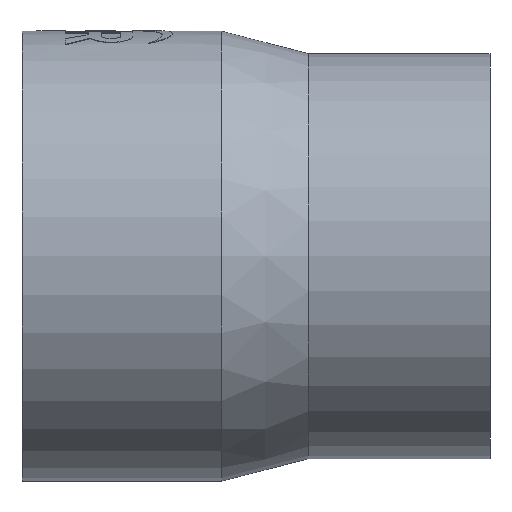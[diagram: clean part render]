
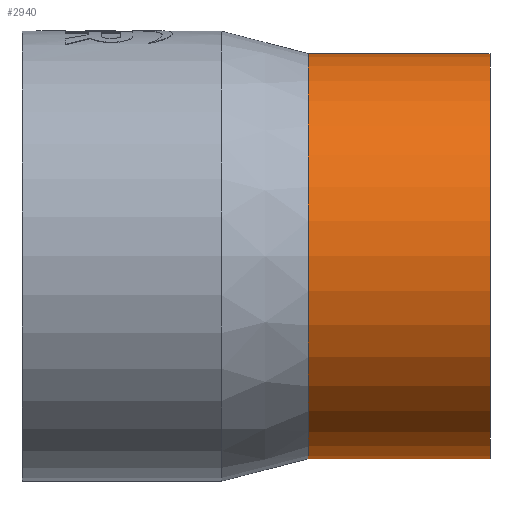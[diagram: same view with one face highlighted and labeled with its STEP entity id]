
A CAD part, front view. The second image highlights one B-rep face of the part: STEP entity #2940.
In plain terms, the highlighted cylindrical face has radius 225 mm (diameter 450 mm), a partial arc.
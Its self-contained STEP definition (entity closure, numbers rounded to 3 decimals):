
#53 = DIRECTION ( 'NONE',  ( -1., 0., 0. ) ) ;
#275 = ORIENTED_EDGE ( 'NONE', *, *, #3305, .F. ) ;
#353 = CARTESIAN_POINT ( 'NONE',  ( 520., 0., 225. ) ) ;
#459 = CARTESIAN_POINT ( 'NONE',  ( 318., 0., -225. ) ) ;
#479 = CARTESIAN_POINT ( 'NONE',  ( 318., 0., 225. ) ) ;
#883 = VERTEX_POINT ( 'NONE', #353 ) ;
#918 = CIRCLE ( 'NONE', #2718, 225. ) ;
#923 = CIRCLE ( 'NONE', #2646, 225. ) ;
#1013 = VERTEX_POINT ( 'NONE', #459 ) ;
#1015 = LINE ( 'NONE', #2954, #3371 ) ;
#1344 = DIRECTION ( 'NONE',  ( 0., 0., 1. ) ) ;
#1353 = CARTESIAN_POINT ( 'NONE',  ( -0.3, 0., 0. ) ) ;
#1473 = DIRECTION ( 'NONE',  ( -1., 0., 0. ) ) ;
#1520 = DIRECTION ( 'NONE',  ( -1., 0., 0. ) ) ;
#1647 = CARTESIAN_POINT ( 'NONE',  ( 520., 0., 0. ) ) ;
#1746 = ORIENTED_EDGE ( 'NONE', *, *, #2326, .T. ) ;
#2071 = DIRECTION ( 'NONE',  ( 0., 0., 1. ) ) ;
#2087 = CARTESIAN_POINT ( 'NONE',  ( 318., 0., 0. ) ) ;
#2122 = VERTEX_POINT ( 'NONE', #479 ) ;
#2280 = EDGE_CURVE ( 'NONE', #2728, #1013, #3374, .T. ) ;
#2326 = EDGE_CURVE ( 'NONE', #883, #2122, #1015, .T. ) ;
#2574 = FACE_OUTER_BOUND ( 'NONE', #3607, .T. ) ;
#2593 = AXIS2_PLACEMENT_3D ( 'NONE', #1353, #1473, #1344 ) ;
#2646 = AXIS2_PLACEMENT_3D ( 'NONE', #2087, #3739, #2071 ) ;
#2718 = AXIS2_PLACEMENT_3D ( 'NONE', #1647, #1520, #3000 ) ;
#2728 = VERTEX_POINT ( 'NONE', #3648 ) ;
#2876 = DIRECTION ( 'NONE',  ( -1., 0., 0. ) ) ;
#2940 = ADVANCED_FACE ( 'NONE', ( #2574 ), #3169, .T. ) ;
#2954 = CARTESIAN_POINT ( 'NONE',  ( -0.3, 0., 225. ) ) ;
#3000 = DIRECTION ( 'NONE',  ( 0., 0., 1. ) ) ;
#3018 = ORIENTED_EDGE ( 'NONE', *, *, #2280, .F. ) ;
#3063 = ORIENTED_EDGE ( 'NONE', *, *, #3325, .T. ) ;
#3124 = CARTESIAN_POINT ( 'NONE',  ( -0.3, 0., -225. ) ) ;
#3169 = CYLINDRICAL_SURFACE ( 'NONE', #2593, 225. ) ;
#3305 = EDGE_CURVE ( 'NONE', #1013, #2122, #923, .T. ) ;
#3325 = EDGE_CURVE ( 'NONE', #2728, #883, #918, .T. ) ;
#3371 = VECTOR ( 'NONE', #2876, 1000. ) ;
#3374 = LINE ( 'NONE', #3124, #3377 ) ;
#3377 = VECTOR ( 'NONE', #53, 1000. ) ;
#3607 = EDGE_LOOP ( 'NONE', ( #3018, #3063, #1746, #275 ) ) ;
#3648 = CARTESIAN_POINT ( 'NONE',  ( 520., 0., -225. ) ) ;
#3739 = DIRECTION ( 'NONE',  ( -1., 0., 0. ) ) ;
